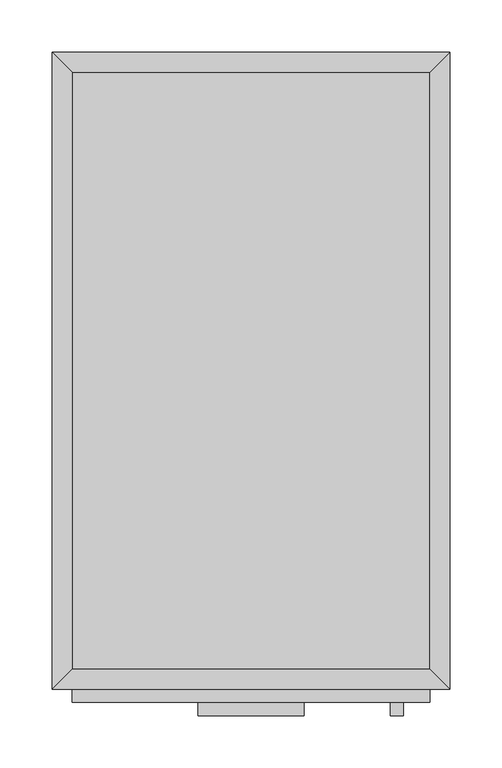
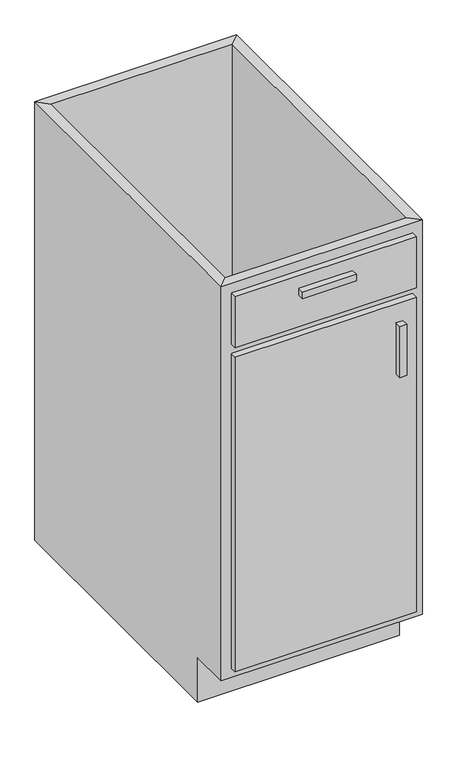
"""IFC4 building model written with IfcOpenShell, lengths in millimetres: furniture geometry, Base Cabinet-Single Door & Drawer : WOODE."""

from ifc_helpers import new_model, si_unit, frame, origin, place, context, project, spatial, polyline, outline, extrude, faceted_brep, source, transform, mapped, element, save


def furniture_0fc2bd2a(model_context):
    return source(origin(), model_context, "Body", "SolidModel", [
        faceted_brep([(190.1877049, -590.55, 876.3), (190.1877049, -590.55, 88.9), (-152.7122951, -590.55, 88.9), (-152.7122951, -590.55, 876.3), (-171.7622951, -609.6, 876.3), (209.2377049, -609.6, 876.3), (-171.7622951, -609.6, 88.9), (209.2377049, -609.6, 88.9), (-152.7122951, -533.4, 88.9), (-152.7122951, -19.05, 88.9), (-152.7122951, -19.05, 876.3), (-171.7622951, 0.0, 876.3), (-171.7622951, 0.0, 0.0), (-171.7622951, -533.4, 0.0), (-171.7622951, -533.4, 88.9), (190.1877049, -19.05, 88.9), (190.1877049, -19.05, 876.3), (209.2377049, 0.0, 876.3), (209.2377049, 0.0, 0.0), (190.1877049, -533.4, 88.9), (209.2377049, -533.4, 88.9), (209.2377049, -533.4, 0.0)], [[[0, 1, 2, 3]], [[0, 3, 4, 5]], [[5, 4, 6, 7]], [[2, 1, 7, 6]], [[3, 2, 8, 9, 10]], [[4, 3, 10, 11]], [[6, 4, 11, 12, 13, 14]], [[2, 6, 14, 8]], [[10, 9, 15, 16]], [[11, 10, 16, 17]], [[12, 11, 17, 18]], [[1, 0, 16, 15, 19]], [[0, 5, 17, 16]], [[5, 7, 20, 21, 18, 17]], [[7, 1, 19, 20]], [[8, 19, 15, 9]], [[18, 21, 13, 12]], [[13, 21, 20, 19, 8, 14]]]),
        extrude(outline(polyline([(164.7877049, -635.0), (152.0877049, -635.0), (152.0877049, -622.3), (164.7877049, -622.3), (164.7877049, -635.0)])), frame((0.0, 0.0, 596.9), z_axis=(0.0, 0.0, 1.0), x_axis=(1.0, 0.0, 0.0)), (0.0, 0.0, 1.0), 101.6),
        extrude(outline(polyline([(69.5377049, -635.0), (-32.0622951, -635.0), (-32.0622951, -622.3), (69.5377049, -622.3), (69.5377049, -635.0)])), frame((0.0, 0.0, 819.15), z_axis=(0.0, 0.0, 1.0), x_axis=(1.0, 0.0, 0.0)), (0.0, 0.0, 1.0), 12.7),
        extrude(outline(polyline([(190.1877049, -622.3), (-152.7122951, -622.3), (-152.7122951, -609.6), (190.1877049, -609.6), (190.1877049, -622.3)])), frame((0.0, 0.0, 107.95), z_axis=(0.0, 0.0, 1.0), x_axis=(1.0, 0.0, 0.0)), (0.0, 0.0, 1.0), 628.65),
        extrude(outline(polyline([(190.1877049, -622.3), (-152.7122951, -622.3), (-152.7122951, -609.6), (190.1877049, -609.6), (190.1877049, -622.3)])), frame((0.0, 0.0, 755.65), z_axis=(0.0, 0.0, 1.0), x_axis=(1.0, 0.0, 0.0)), (0.0, 0.0, 1.0), 101.6),
        extrude(outline(polyline([(190.1877049, -19.05), (190.1877049, -590.55), (-152.7122951, -590.55), (-152.7122951, -19.05), (190.1877049, -19.05)])), frame((0.0, 0.0, 88.9), z_axis=(0.0, 0.0, 1.0), x_axis=(1.0, 0.0, 0.0)), (0.0, 0.0, 1.0), 19.05),
    ])


if __name__ == "__main__":
    model = new_model("IFC4")
    model_context = context("Model", 3, world=origin())
    ifc_project = project(units=[si_unit("LENGTHUNIT", "METRE", prefix="MILLI")], contexts=[model_context])
    site = spatial("IfcSite", under=ifc_project)
    building = spatial("IfcBuilding", under=site)
    placement = place(None, origin())
    furniture_shape = furniture_0fc2bd2a(model_context)
    element("IfcFurniture", 1, ObjectType="Base Cabinet-Single Door & Drawer : WOODE", at=placement, inside=building, context=model_context, shape_type="MappedRepresentation", body=[
        mapped(furniture_shape, transform((0.0, 0.0, 0.0), x_axis=(1.0, 0.0, 0.0), y_axis=(0.0, 1.0, 0.0), z_axis=(0.0, 0.0, 1.0))),
    ])
    save(model, "model.ifc")
